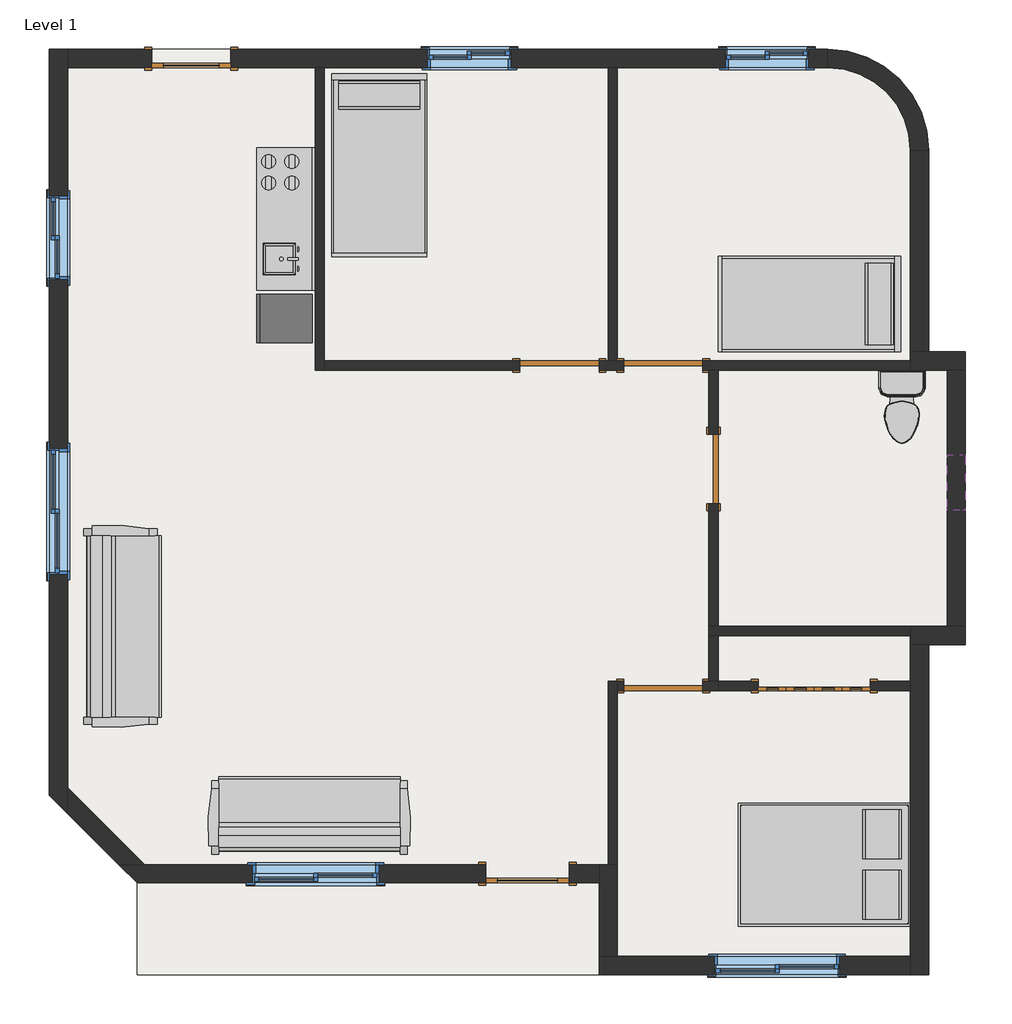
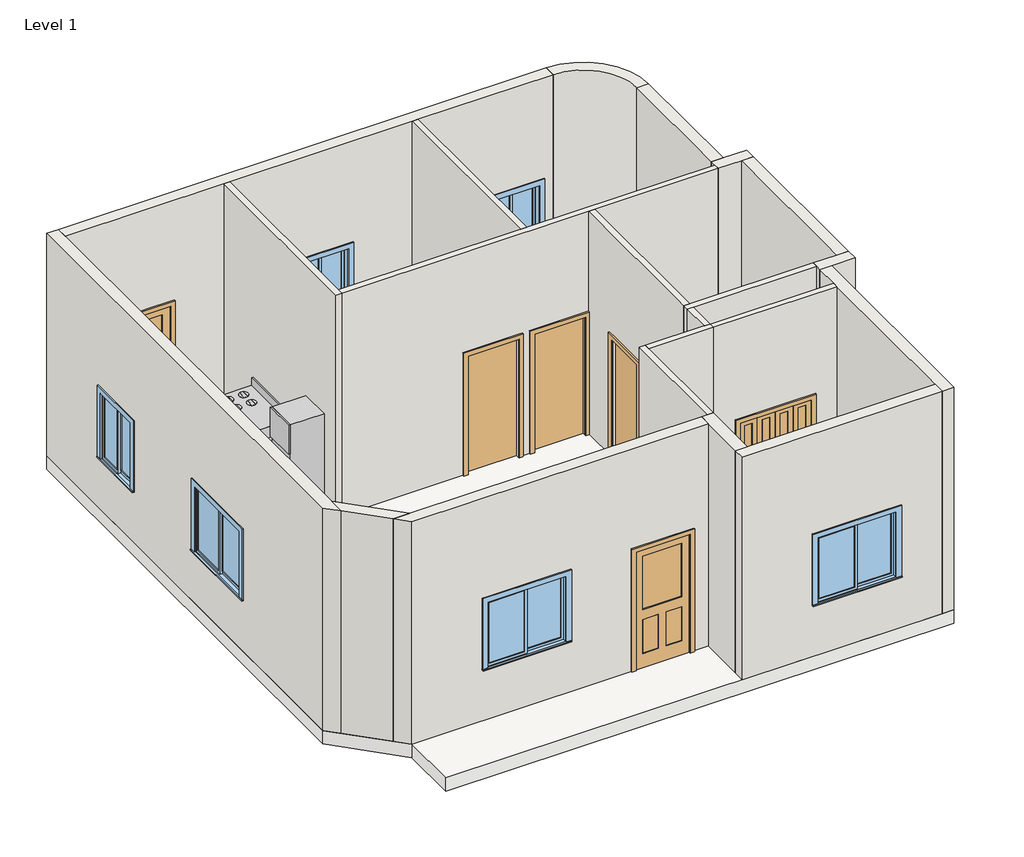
# One storey: 21 walls, 7 doors, 7 windows, 5 furniture elements, 2 flow terminals, 1 slab.
"""IFC4 building model written with IfcOpenShell, lengths in millimetres."""

from ifc_helpers import new_model, si_unit, point, frame, frame_2d, origin, origin_with_axes, place, context, project, spatial, polyline, circle_curve, trimmed, segment, composite_curve, outline, extrude, faceted_brep, transform, mapped, element, save
from components import m_bifold_4_panel_1220_x_2134mm_c9b228a8, m_single_decorative_1_0864_x_2134mm_a8b8a0d3, m_single_decorative_1_0914_x_2134mm_d79a5f66, m_single_flush_0762_x_2134mm_2f099e9c, m_single_flush_0864_x_2134mm_3838e64d, m_single_flush_0864_x_2134mm_bdbe8edc, m_kitchen_unit_635_mmx2135_mm_826748c3, m_toilet_domestic_3d_m_toilet_domestic_3d_5cb52bd4, m_toilet_domestic_3d_m_toilet_domestic_3d_183bbd19, m_bed_box_1346_x_1880mm_double_9a731973, m_bed_shaker_1040_x_1981mm_twin_31f1bf66, m_sofa_pensi_2134mm_eda8efce, m_fixed_0610_x_0610mm_cacddef9, m_sliding_with_trim_0915_x_1220mm_c5f69082, m_sliding_with_trim_1372_x_1220mm_1cbd48f5

model = new_model("IFC4")

# Units and contexts
model_context = context("Model", 3, world=origin())
ifc_project = project(units=[si_unit("LENGTHUNIT", "METRE", prefix="MILLI")], contexts=[model_context])

# Site, building, storey
site = spatial("IfcSite", under=ifc_project)
building = spatial("IfcBuilding", under=site)
storey = spatial("IfcBuildingStorey", under=building, Name="Level 1", Elevation=0.0)

# Doors
placement = place(None, origin())
m_bifold_4_panel_1220_x_2134mm_shape = m_bifold_4_panel_1220_x_2134mm_c9b228a8(model_context)
element("IfcDoor", 1, ObjectType="M_Bifold-4 Panel : 1220 x 2134mm", at=placement, inside=storey, context=model_context, shape_type="MappedRepresentation", body=[
    mapped(m_bifold_4_panel_1220_x_2134mm_shape, transform((-9012.9123896, -2705.4324328, 0.0), x_axis=(-1.0, 0.0, 0.0), y_axis=(0.0, -1.0, 0.0), z_axis=(0.0, 0.0, 1.0))),
])
m_single_decorative_1_0864_x_2134mm_shape = m_single_decorative_1_0864_x_2134mm_a8b8a0d3(model_context)
element("IfcDoor", 2, ObjectType="M_Single-Decorative 1 : 0864 x 2134mm", at=placement, inside=storey, context=model_context, shape_type="MappedRepresentation", body=[
    mapped(m_single_decorative_1_0864_x_2134mm_shape, transform((-15812.9123896, 4144.5675672, 0.0), x_axis=(-1.0, 0.0, 0.0), y_axis=(0.0, -1.0, 0.0), z_axis=(0.0, 0.0, 1.0))),
])
m_single_decorative_1_0914_x_2134mm_shape = m_single_decorative_1_0914_x_2134mm_d79a5f66(model_context)
element("IfcDoor", 3, ObjectType="M_Single-Decorative 1 : 0914 x 2134mm", at=placement, inside=storey, context=model_context, shape_type="MappedRepresentation", body=[
    mapped(m_single_decorative_1_0914_x_2134mm_shape, transform((-12142.9123896, -4755.4324328, 0.0), x_axis=(-1.0, 0.0, 0.0), y_axis=(0.0, -1.0, 0.0), z_axis=(0.0, 0.0, 1.0))),
])
m_single_flush_0762_x_2134mm_shape = m_single_flush_0762_x_2134mm_2f099e9c(model_context)
element("IfcDoor", 4, ObjectType="M_Single-Flush : 0762 x 2134mm", at=placement, inside=storey, context=model_context, shape_type="MappedRepresentation", body=[
    mapped(m_single_flush_0762_x_2134mm_shape, transform((-10112.9123896, -336.4324328, 0.0), x_axis=(0.0, 1.0, 0.0), y_axis=(-1.0, 0.0, 0.0), z_axis=(0.0, 0.0, 1.0))),
])
m_single_flush_0864_x_2134mm_shape = m_single_flush_0864_x_2134mm_3838e64d(model_context)
element("IfcDoor", 5, ObjectType="M_Single-Flush : 0864 x 2134mm", at=placement, inside=storey, context=model_context, shape_type="MappedRepresentation", body=[
    mapped(m_single_flush_0864_x_2134mm_shape, transform((-10662.9123896, -2705.4324328, 0.0), x_axis=(-1.0, 0.0, 0.0), y_axis=(0.0, -1.0, 0.0), z_axis=(0.0, 0.0, 1.0))),
])
element("IfcDoor", 6, ObjectType="M_Single-Flush : 0864 x 2134mm", at=placement, inside=storey, context=model_context, shape_type="MappedRepresentation", body=[
    mapped(m_single_flush_0864_x_2134mm_shape, transform((-11794.9123896, 794.5675672, 0.0), x_axis=(1.0, 0.0, 0.0), y_axis=(0.0, 1.0, 0.0), z_axis=(0.0, 0.0, 1.0))),
])
m_single_flush_0864_x_2134mm_2_shape = m_single_flush_0864_x_2134mm_bdbe8edc(model_context)
element("IfcDoor", 7, ObjectType="M_Single-Flush : 0864 x 2134mm", at=placement, inside=storey, context=model_context, shape_type="MappedRepresentation", body=[
    mapped(m_single_flush_0864_x_2134mm_2_shape, transform((-10662.9123896, 794.5675672, 0.0), x_axis=(-1.0, 0.0, 0.0), y_axis=(0.0, -1.0, 0.0), z_axis=(0.0, 0.0, 1.0))),
])

# Flow terminals
m_kitchen_unit_635_mmx2135_mm_shape = m_kitchen_unit_635_mmx2135_mm_826748c3(model_context)
element("IfcFlowTerminal", 8, ObjectType="M_Kitchen Unit : 635 mmx2135 mm", at=placement, inside=storey, context=model_context, shape_type="MappedRepresentation", body=[
    mapped(m_kitchen_unit_635_mmx2135_mm_shape, transform((-14462.9123896, 2394.5675672, 0.0), x_axis=(-1.0000000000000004, 0.0, 0.0), y_axis=(0.0, -1.0000000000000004, 0.0), z_axis=(0.0, 0.0, 1.0))),
])
m_toilet_domestic_3d_m_toilet_domestic_3d_shape = m_toilet_domestic_3d_m_toilet_domestic_3d_5cb52bd4(model_context)
m_toilet_domestic_3d_m_toilet_domestic_3d_2_shape = m_toilet_domestic_3d_m_toilet_domestic_3d_183bbd19(model_context)
element("IfcFlowTerminal", 9, ObjectType="M_Toilet-Domestic-3D : M_Toilet-Domestic-3D", at=placement, inside=storey, context=model_context, shape_type="MappedRepresentation", body=[
    mapped(m_toilet_domestic_3d_m_toilet_domestic_3d_shape, transform((-8056.308417, 249.8715399, 0.0), x_axis=(1.0, 0.0, 0.0), y_axis=(0.0, 1.0, 0.0), z_axis=(0.0, 0.0, 1.0))),
    mapped(m_toilet_domestic_3d_m_toilet_domestic_3d_2_shape, transform((-8056.308417, 249.8715399, 0.0), x_axis=(1.0, 0.0, 0.0), y_axis=(0.0, 1.0, 0.0), z_axis=(0.0, 0.0, 1.0))),
])

# Furniture
m_bed_box_1346_x_1880mm_double_shape = m_bed_box_1346_x_1880mm_double_9a731973(model_context)
element("IfcFurniture", 10, ObjectType="M_Bed-Box : 1346 x 1880mm - Double", at=placement, inside=storey, context=model_context, shape_type="MappedRepresentation", body=[
    mapped(m_bed_box_1346_x_1880mm_double_shape, transform((-8668.4828814, -4316.2799738, 0.0), x_axis=(0.0, -1.0, 0.0), y_axis=(1.0, 0.0, 0.0), z_axis=(0.0, 0.0, 1.0))),
])
m_bed_shaker_1040_x_1981mm_twin_shape = m_bed_shaker_1040_x_1981mm_twin_31f1bf66(model_context)
element("IfcFurniture", 11, ObjectType="M_Bed-Shaker : 1040 x 1981mm - Twin", at=placement, inside=storey, context=model_context, shape_type="MappedRepresentation", body=[
    mapped(m_bed_shaker_1040_x_1981mm_twin_shape, transform((-8081.7123896, 1446.2175672, 0.0), x_axis=(0.0, -1.0000000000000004, 0.0), y_axis=(1.0000000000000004, 0.0, 0.0), z_axis=(0.0, 0.0, 1.0))),
])
element("IfcFurniture", 12, ObjectType="M_Bed-Shaker : 1040 x 1981mm - Twin", at=placement, inside=storey, context=model_context, shape_type="MappedRepresentation", body=[
    mapped(m_bed_shaker_1040_x_1981mm_twin_shape, transform((-13743.1623896, 3964.5675672, 0.0), x_axis=(1.0, 0.0, 0.0), y_axis=(0.0, 1.0, 0.0), z_axis=(0.0, 0.0, 1.0))),
])
m_sofa_pensi_2134mm_shape = m_sofa_pensi_2134mm_eda8efce(model_context)
element("IfcFurniture", 13, ObjectType="M_Sofa-Pensi : 2134mm", at=placement, inside=storey, context=model_context, shape_type="MappedRepresentation", body=[
    mapped(m_sofa_pensi_2134mm_shape, transform((-14244.3061396, -3838.3225967, 0.0), x_axis=(-0.9999999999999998, 0.0, 0.0), y_axis=(0.0, -0.9999999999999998, 0.0), z_axis=(0.0, 0.0, 1.0))),
])
element("IfcFurniture", 14, ObjectType="M_Sofa-Pensi : 2134mm", at=placement, inside=storey, context=model_context, shape_type="MappedRepresentation", body=[
    mapped(m_sofa_pensi_2134mm_shape, transform((-16285.8025536, -2334.0386828, 0.0), x_axis=(0.0, 1.0000000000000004, 0.0), y_axis=(-1.0000000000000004, 0.0, 0.0), z_axis=(0.0, 0.0, 1.0))),
])

# Slab
element("IfcSlab", 15, ObjectType="Standard Timber-Wood Finish", at=placement, inside=storey, context=model_context, shape_type="SweptSolid", body=[
    extrude(outline(composite_curve([segment(polyline([(-7762.9123896, 944.5675672), (-7362.9123896, 944.5675672), (-7362.9123896, -2255.4324328), (-7762.9123896, -2255.4324328), (-7762.9123896, -5855.4324328), (-16404.3337459, -5855.4324328), (-16404.3337459, -4855.4324328), (-17362.9123896, -3896.853789), (-17362.9123896, 4244.5675672), (-8862.9123896, 4244.5675672)]), True, "CONTINUOUS"), segment(trimmed(circle_curve(frame_2d((-8862.9123896, 3144.5675672)), 1100.0), [point((-8862.9123896, 4244.5675672))], [point((-7762.9123896, 3144.5675672))], False, "CARTESIAN"), True, "CONTINUOUS"), segment(polyline([(-7762.9123896, 3144.5675672), (-7762.9123896, 944.5675672)]), True, "CONTINUOUS")], self_intersect=False)), frame((0.0, 0.0, -241.0), z_axis=(0.0, 0.0, 1.0), x_axis=(1.0, 0.0, 0.0)), (0.0, 0.0, 1.0), 241.0),
])

# Walls
element("IfcWall", 16, ObjectType="Generic - 100mm", at=placement, inside=storey, context=model_context, shape_type="Brep", body=[
    faceted_brep([(-7962.9123896, -2055.4324328, 0.0), (-10062.9123896, -2055.4324328, 0.0), (-10162.9123896, -2055.4324328, 0.0), (-10162.9123896, -2055.4324328, 4000.0), (-10062.9123896, -2055.4324328, 4000.0), (-7962.9123896, -2055.4324328, 4000.0), (-7962.9123896, -2155.4324328, 0.0), (-7962.9123896, -2155.4324328, 4000.0), (-10062.9123896, -2155.4324328, 4000.0), (-10162.9123896, -2155.4324328, 4000.0), (-10162.9123896, -2155.4324328, 0.0), (-10062.9123896, -2155.4324328, 0.0)], [[[0, 1, 2, 3, 4, 5]], [[6, 7, 8, 9, 10, 11]], [[2, 1, 0, 6, 11, 10]], [[5, 4, 3, 9, 8, 7]], [[0, 5, 7, 6]], [[3, 2, 10, 9]]]),
])
element("IfcWall", 17, ObjectType="Generic - 100mm", at=placement, inside=storey, context=model_context, shape_type="Brep", body=[
    faceted_brep([(-11262.9123896, -2655.4324328, 0.0), (-11262.9123896, -4655.4324328, 0.0), (-11262.9123896, -4655.4324328, 4000.0), (-11262.9123896, -2655.4324328, 4000.0), (-11162.9123896, -2655.4324328, 0.0), (-11162.9123896, -2655.4324328, 4000.0), (-11162.9123896, -2755.4324328, 4000.0), (-11162.9123896, -4655.4324328, 4000.0), (-11162.9123896, -4655.4324328, 0.0), (-11162.9123896, -2755.4324328, 0.0)], [[[0, 1, 2, 3]], [[4, 5, 6, 7, 8, 9]], [[1, 0, 4, 9, 8]], [[3, 2, 7, 6, 5]], [[2, 1, 8, 7]], [[0, 3, 5, 4]]]),
])
element("IfcWall", 18, ObjectType="Generic - 100mm", at=placement, inside=storey, context=model_context, shape_type="Brep", body=[
    faceted_brep([(-11094.9123896, -2655.4324328, 2134.0), (-11094.9123896, -2655.4324328, 0.0), (-11162.9123896, -2655.4324328, 0.0), (-11162.9123896, -2655.4324328, 4000.0), (-10162.9123896, -2655.4324328, 4000.0), (-10062.9123896, -2655.4324328, 4000.0), (-10062.9123896, -2655.4324328, 0.0), (-10162.9123896, -2655.4324328, 0.0), (-10230.9123896, -2655.4324328, 0.0), (-10230.9123896, -2655.4324328, 2134.0), (-11162.9123896, -2755.4324328, 0.0), (-11094.9123896, -2755.4324328, 0.0), (-11094.9123896, -2755.4324328, 2134.0), (-10230.9123896, -2755.4324328, 2134.0), (-10230.9123896, -2755.4324328, 0.0), (-10062.9123896, -2755.4324328, 0.0), (-10062.9123896, -2755.4324328, 4000.0), (-11162.9123896, -2755.4324328, 4000.0)], [[[0, 1, 2, 3, 4, 5, 6, 7, 8, 9]], [[10, 11, 12, 13, 14, 15, 16, 17]], [[2, 1, 11, 10]], [[8, 7, 6, 15, 14]], [[5, 4, 3, 17, 16]], [[3, 2, 10, 17]], [[6, 5, 16, 15]], [[12, 11, 1, 0]], [[13, 12, 0, 9]], [[14, 13, 9, 8]]]),
])
element("IfcWall", 19, ObjectType="Generic - 100mm", at=placement, inside=storey, context=model_context, shape_type="SweptSolid", body=[
    extrude(outline(polyline([(-10162.9123896, -2655.4324328), (-10162.9123896, -2155.4324328), (-10062.9123896, -2155.4324328), (-10062.9123896, -2655.4324328), (-10162.9123896, -2655.4324328)])), origin_with_axes(), (0.0, 0.0, 1.0), 4000.0),
])
element("IfcWall", 20, ObjectType="Generic - 100mm", at=placement, inside=storey, context=model_context, shape_type="SweptSolid", body=[
    extrude(outline(polyline([(4000.0, -7962.9123896), (4000.0, -10062.9123896), (0.0, -10062.9123896), (0.0, -9622.9123896), (2134.0, -9622.9123896), (2134.0, -8402.9123896), (0.0, -8402.9123896), (0.0, -7962.9123896), (4000.0, -7962.9123896)])), frame((0.0, -2755.4324328, 0.0), z_axis=(0.0, 1.0, 0.0), x_axis=(0.0, 0.0, 1.0)), (0.0, 0.0, 1.0), 100.0),
])
element("IfcWall", 21, ObjectType="Generic - 100mm", at=placement, inside=storey, context=model_context, shape_type="Brep", body=[
    faceted_brep([(-11094.9123896, 844.5675672, 0.0), (-11162.9123896, 844.5675672, 0.0), (-11262.9123896, 844.5675672, 0.0), (-11362.9123896, 844.5675672, 0.0), (-11362.9123896, 844.5675672, 2134.0), (-12226.9123896, 844.5675672, 2134.0), (-12226.9123896, 844.5675672, 0.0), (-14362.9123896, 844.5675672, 0.0), (-14362.9123896, 844.5675672, 4000.0), (-11262.9123896, 844.5675672, 4000.0), (-11162.9123896, 844.5675672, 4000.0), (-7962.9123896, 844.5675672, 4000.0), (-7962.9123896, 844.5675672, 0.0), (-10230.9123896, 844.5675672, 0.0), (-10230.9123896, 844.5675672, 2134.0), (-11094.9123896, 844.5675672, 2134.0), (-11362.9123896, 744.5675672, 2134.0), (-11362.9123896, 744.5675672, 0.0), (-11094.9123896, 744.5675672, 0.0), (-11094.9123896, 744.5675672, 2134.0), (-10230.9123896, 744.5675672, 2134.0), (-10230.9123896, 744.5675672, 0.0), (-10162.9123896, 744.5675672, 0.0), (-10062.9123896, 744.5675672, 0.0), (-7962.9123896, 744.5675672, 0.0), (-7962.9123896, 744.5675672, 4000.0), (-10062.9123896, 744.5675672, 4000.0), (-10162.9123896, 744.5675672, 4000.0), (-14362.9123896, 744.5675672, 4000.0), (-14362.9123896, 744.5675672, 0.0), (-12226.9123896, 744.5675672, 0.0), (-12226.9123896, 744.5675672, 2134.0)], [[[0, 1, 2, 3, 4, 5, 6, 7, 8, 9, 10, 11, 12, 13, 14, 15]], [[16, 17, 18, 19, 20, 21, 22, 23, 24, 25, 26, 27, 28, 29, 30, 31]], [[13, 12, 24, 23, 22, 21]], [[30, 29, 7, 6]], [[18, 17, 3, 2, 1, 0]], [[11, 10, 9, 8, 28, 27, 26, 25]], [[12, 11, 25, 24]], [[8, 7, 29, 28]], [[19, 18, 0, 15]], [[20, 19, 15, 14]], [[21, 20, 14, 13]], [[4, 3, 17, 16]], [[5, 4, 16, 31]], [[6, 5, 31, 30]]]),
])
element("IfcWall", 22, ObjectType="Generic - 100mm", at=placement, inside=storey, context=model_context, shape_type="SweptSolid", body=[
    extrude(outline(polyline([(744.5675672, 0.0), (44.5675672, 0.0), (44.5675672, 2134.0), (-717.4324328, 2134.0), (-717.4324328, 0.0), (-2055.4324328, 0.0), (-2055.4324328, 4000.0), (744.5675672, 4000.0), (744.5675672, 0.0)])), frame((-10162.9123896, 0.0, 0.0), z_axis=(1.0, 0.0, 0.0), x_axis=(0.0, 1.0, 0.0)), (0.0, 0.0, 1.0), 100.0),
])
element("IfcWall", 23, ObjectType="Generic - 100mm", at=placement, inside=storey, context=model_context, shape_type="Brep", body=[
    faceted_brep([(-14462.9123896, 4044.5675672, 0.0), (-14462.9123896, 744.5675672, 0.0), (-14462.9123896, 744.5675672, 4000.0), (-14462.9123896, 4044.5675672, 4000.0), (-14362.9123896, 4044.5675672, 0.0), (-14362.9123896, 4044.5675672, 4000.0), (-14362.9123896, 844.5675672, 4000.0), (-14362.9123896, 744.5675672, 4000.0), (-14362.9123896, 744.5675672, 0.0), (-14362.9123896, 844.5675672, 0.0)], [[[0, 1, 2, 3]], [[4, 5, 6, 7, 8, 9]], [[1, 0, 4, 9, 8]], [[3, 2, 7, 6, 5]], [[0, 3, 5, 4]], [[2, 1, 8, 7]]]),
])
element("IfcWall", 24, ObjectType="Generic - 100mm", at=placement, inside=storey, context=model_context, shape_type="SweptSolid", body=[
    extrude(outline(polyline([(-11262.9123896, 844.5675672), (-11262.9123896, 4044.5675672), (-11162.9123896, 4044.5675672), (-11162.9123896, 844.5675672), (-11262.9123896, 844.5675672)])), origin_with_axes(), (0.0, 0.0, 1.0), 4000.0),
])
element("IfcWall", 25, ObjectType="Generic - 200mm", at=placement, inside=storey, context=model_context, shape_type="Brep", body=[
    faceted_brep([(-17162.9123896, -4096.853789, 0.0), (-17162.9123896, -3814.0110766, 0.0), (-17162.9123896, 4044.5675672, 0.0), (-17162.9123896, 4244.5675672, 0.0), (-17162.9123896, 4244.5675672, 4000.0), (-17162.9123896, 4044.5675672, 4000.0), (-17162.9123896, -3814.0110766, 4000.0), (-17162.9123896, -4096.853789, 4000.0), (-17162.9123896, -113.4824328, 2135.0), (-17162.9123896, -113.4824328, 915.0), (-17162.9123896, -1485.4824328, 915.0), (-17162.9123896, -1485.4824328, 2135.0), (-17162.9123896, 2644.5675672, 2135.0), (-17162.9123896, 2644.5675672, 915.0), (-17162.9123896, 1729.5675672, 915.0), (-17162.9123896, 1729.5675672, 2135.0), (-17362.9123896, -3896.853789, 0.0), (-17362.9123896, -3896.853789, 4000.0), (-17362.9123896, 4244.5675672, 4000.0), (-17362.9123896, 4244.5675672, 0.0), (-17362.9123896, -113.4824328, 2135.0), (-17362.9123896, -1485.4824328, 2135.0), (-17362.9123896, -1485.4824328, 915.0), (-17362.9123896, -113.4824328, 915.0), (-17362.9123896, 2644.5675672, 2135.0), (-17362.9123896, 1729.5675672, 2135.0), (-17362.9123896, 1729.5675672, 915.0), (-17362.9123896, 2644.5675672, 915.0)], [[[0, 1, 2, 3, 4, 5, 6, 7], [8, 9, 10, 11], [12, 13, 14, 15]], [[16, 17, 18, 19], [20, 21, 22, 23], [24, 25, 26, 27]], [[3, 2, 1, 0, 16, 19]], [[7, 6, 5, 4, 18, 17]], [[4, 3, 19, 18]], [[9, 8, 20, 23]], [[10, 9, 23, 22]], [[11, 10, 22, 21]], [[8, 11, 21, 20]], [[13, 12, 24, 27]], [[14, 13, 27, 26]], [[15, 14, 26, 25]], [[12, 15, 25, 24]], [[0, 7, 17, 16]]]),
])
element("IfcWall", 26, ObjectType="Generic - 200mm", at=placement, inside=storey, context=model_context, shape_type="Brep", body=[
    faceted_brep([(-8862.9123896, 4044.5675672, 0.0), (-8862.9123896, 4044.5675672, 4000.0), (-11162.9123896, 4044.5675672, 4000.0), (-11262.9123896, 4044.5675672, 4000.0), (-14362.9123896, 4044.5675672, 4000.0), (-14462.9123896, 4044.5675672, 4000.0), (-17162.9123896, 4044.5675672, 4000.0), (-17162.9123896, 4044.5675672, 0.0), (-16244.9123896, 4044.5675672, 0.0), (-16244.9123896, 4044.5675672, 2134.0), (-15380.9123896, 4044.5675672, 2134.0), (-15380.9123896, 4044.5675672, 0.0), (-14462.9123896, 4044.5675672, 0.0), (-14362.9123896, 4044.5675672, 0.0), (-11262.9123896, 4044.5675672, 0.0), (-11162.9123896, 4044.5675672, 0.0), (-9070.4373896, 4044.5675672, 2135.0), (-9070.4373896, 4044.5675672, 915.0), (-9985.4373896, 4044.5675672, 915.0), (-9985.4373896, 4044.5675672, 2135.0), (-12320.4373896, 4044.5675672, 2135.0), (-12320.4373896, 4044.5675672, 915.0), (-13235.4373896, 4044.5675672, 915.0), (-13235.4373896, 4044.5675672, 2135.0), (-8862.9123896, 4244.5675672, 4000.0), (-8862.9123896, 4244.5675672, 0.0), (-15380.9123896, 4244.5675672, 0.0), (-15380.9123896, 4244.5675672, 2134.0), (-16244.9123896, 4244.5675672, 2134.0), (-16244.9123896, 4244.5675672, 0.0), (-17162.9123896, 4244.5675672, 0.0), (-17162.9123896, 4244.5675672, 4000.0), (-9070.4373896, 4244.5675672, 2135.0), (-9985.4373896, 4244.5675672, 2135.0), (-9985.4373896, 4244.5675672, 915.0), (-9070.4373896, 4244.5675672, 915.0), (-12320.4373896, 4244.5675672, 2135.0), (-13235.4373896, 4244.5675672, 2135.0), (-13235.4373896, 4244.5675672, 915.0), (-12320.4373896, 4244.5675672, 915.0)], [[[0, 1, 2, 3, 4, 5, 6, 7, 8, 9, 10, 11, 12, 13, 14, 15], [16, 17, 18, 19], [20, 21, 22, 23]], [[24, 25, 26, 27, 28, 29, 30, 31], [32, 33, 34, 35], [36, 37, 38, 39]], [[7, 30, 29, 8]], [[25, 0, 15, 14, 13, 12, 11, 26]], [[1, 0, 25, 24]], [[6, 5, 4, 3, 2, 1, 24, 31]], [[7, 6, 31, 30]], [[28, 9, 8, 29]], [[9, 28, 27, 10]], [[10, 27, 26, 11]], [[17, 16, 32, 35]], [[18, 17, 35, 34]], [[19, 18, 34, 33]], [[16, 19, 33, 32]], [[21, 20, 36, 39]], [[22, 21, 39, 38]], [[23, 22, 38, 37]], [[20, 23, 37, 36]]]),
])
element("IfcWall", 27, ObjectType="Generic - 200mm", at=placement, inside=storey, context=model_context, shape_type="SweptSolid", body=[
    extrude(outline(polyline([(-7962.9123896, 944.5675672), (-7962.9123896, 3144.5675672), (-7762.9123896, 3144.5675672), (-7762.9123896, 944.5675672), (-7962.9123896, 944.5675672)])), origin_with_axes(), (0.0, 0.0, 1.0), 4000.0),
])
element("IfcWall", 28, ObjectType="Generic - 200mm", at=placement, inside=storey, context=model_context, shape_type="Brep", body=[
    faceted_brep([(-7962.9123896, 744.5675672, 0.0), (-7562.9123896, 744.5675672, 0.0), (-7362.9123896, 744.5675672, 0.0), (-7362.9123896, 744.5675672, 4000.0), (-7562.9123896, 744.5675672, 4000.0), (-7962.9123896, 744.5675672, 4000.0), (-7962.9123896, 944.5675672, 0.0), (-7962.9123896, 944.5675672, 4000.0), (-7762.9123896, 944.5675672, 4000.0), (-7362.9123896, 944.5675672, 4000.0), (-7362.9123896, 944.5675672, 0.0), (-7762.9123896, 944.5675672, 0.0), (-7962.9123896, 844.5675672, 0.0), (-7962.9123896, 844.5675672, 4000.0)], [[[0, 1, 2, 3, 4, 5]], [[6, 7, 8, 9, 10, 11]], [[2, 1, 0, 12, 6, 11, 10]], [[5, 4, 3, 9, 8, 7, 13]], [[0, 5, 13, 7, 6, 12]], [[3, 2, 10, 9]]]),
])
element("IfcWall", 29, ObjectType="Generic - 200mm", at=placement, inside=storey, context=model_context, shape_type="SweptSolid", body=[
    extrude(outline(polyline([(744.5675672, 0.0), (-2055.4324328, 0.0), (-2055.4324328, 4000.0), (744.5675672, 4000.0), (744.5675672, 0.0)]), holes=[polyline([(-177.8824328, 1800.0), (-177.8824328, 2410.0), (-787.8824328, 2410.0), (-787.8824328, 1800.0), (-177.8824328, 1800.0)])]), frame((-7562.9123896, 0.0, 0.0), z_axis=(1.0, 0.0, 0.0), x_axis=(0.0, 1.0, 0.0)), (0.0, 0.0, 1.0), 200.0),
])
element("IfcWall", 30, ObjectType="Generic - 200mm", at=placement, inside=storey, context=model_context, shape_type="Brep", body=[
    faceted_brep([(-7362.9123896, -2055.4324328, 0.0), (-7562.9123896, -2055.4324328, 0.0), (-7962.9123896, -2055.4324328, 0.0), (-7962.9123896, -2055.4324328, 4000.0), (-7562.9123896, -2055.4324328, 4000.0), (-7362.9123896, -2055.4324328, 4000.0), (-7362.9123896, -2255.4324328, 0.0), (-7362.9123896, -2255.4324328, 4000.0), (-7762.9123896, -2255.4324328, 4000.0), (-7962.9123896, -2255.4324328, 4000.0), (-7962.9123896, -2255.4324328, 0.0), (-7762.9123896, -2255.4324328, 0.0), (-7962.9123896, -2155.4324328, 0.0), (-7962.9123896, -2155.4324328, 4000.0)], [[[0, 1, 2, 3, 4, 5]], [[6, 7, 8, 9, 10, 11]], [[2, 1, 0, 6, 11, 10, 12]], [[5, 4, 3, 13, 9, 8, 7]], [[0, 5, 7, 6]], [[3, 2, 12, 10, 9, 13]]]),
])
element("IfcWall", 31, ObjectType="Generic - 200mm", at=placement, inside=storey, context=model_context, shape_type="Brep", body=[
    faceted_brep([(-7962.9123896, -2255.4324328, 0.0), (-7962.9123896, -2655.4324328, 0.0), (-7962.9123896, -2755.4324328, 0.0), (-7962.9123896, -5655.4324328, 0.0), (-7962.9123896, -5855.4324328, 0.0), (-7962.9123896, -5855.4324328, 4000.0), (-7962.9123896, -5655.4324328, 4000.0), (-7962.9123896, -2755.4324328, 4000.0), (-7962.9123896, -2655.4324328, 4000.0), (-7962.9123896, -2255.4324328, 4000.0), (-7762.9123896, -2255.4324328, 0.0), (-7762.9123896, -2255.4324328, 4000.0), (-7762.9123896, -5855.4324328, 4000.0), (-7762.9123896, -5855.4324328, 0.0)], [[[0, 1, 2, 3, 4, 5, 6, 7, 8, 9]], [[10, 11, 12, 13]], [[4, 3, 2, 1, 0, 10, 13]], [[9, 8, 7, 6, 5, 12, 11]], [[0, 9, 11, 10]], [[5, 4, 13, 12]]]),
])
element("IfcWall", 32, ObjectType="Generic - 200mm", at=placement, inside=storey, context=model_context, shape_type="Brep", body=[
    faceted_brep([(-7962.9123896, -5655.4324328, 0.0), (-11162.9123896, -5655.4324328, 0.0), (-11362.9123896, -5655.4324328, 0.0), (-11362.9123896, -5655.4324328, 4000.0), (-11162.9123896, -5655.4324328, 4000.0), (-7962.9123896, -5655.4324328, 4000.0), (-10104.8623896, -5655.4324328, 2135.0), (-10104.8623896, -5655.4324328, 915.0), (-8732.8623896, -5655.4324328, 915.0), (-8732.8623896, -5655.4324328, 2135.0), (-7962.9123896, -5855.4324328, 0.0), (-7962.9123896, -5855.4324328, 4000.0), (-11362.9123896, -5855.4324328, 4000.0), (-11362.9123896, -5855.4324328, 0.0), (-10104.8623896, -5855.4324328, 2135.0), (-8732.8623896, -5855.4324328, 2135.0), (-8732.8623896, -5855.4324328, 915.0), (-10104.8623896, -5855.4324328, 915.0)], [[[0, 1, 2, 3, 4, 5], [6, 7, 8, 9]], [[10, 11, 12, 13], [14, 15, 16, 17]], [[2, 1, 0, 10, 13]], [[5, 4, 3, 12, 11]], [[0, 5, 11, 10]], [[3, 2, 13, 12]], [[7, 6, 14, 17]], [[8, 7, 17, 16]], [[9, 8, 16, 15]], [[6, 9, 15, 14]]]),
])
element("IfcWall", 33, ObjectType="Generic - 200mm", at=placement, inside=storey, context=model_context, shape_type="Brep", body=[
    faceted_brep([(-11162.9123896, -5655.4324328, 0.0), (-11162.9123896, -4655.4324328, 0.0), (-11162.9123896, -4655.4324328, 4000.0), (-11162.9123896, -5655.4324328, 4000.0), (-11362.9123896, -5655.4324328, 0.0), (-11362.9123896, -5655.4324328, 4000.0), (-11362.9123896, -4855.4324328, 4000.0), (-11362.9123896, -4655.4324328, 4000.0), (-11362.9123896, -4655.4324328, 0.0), (-11362.9123896, -4855.4324328, 0.0), (-11262.9123896, -4655.4324328, 0.0), (-11262.9123896, -4655.4324328, 4000.0)], [[[0, 1, 2, 3]], [[4, 5, 6, 7, 8, 9]], [[1, 0, 4, 9, 8, 10]], [[3, 2, 11, 7, 6, 5]], [[0, 3, 5, 4]], [[2, 1, 10, 8, 7, 11]]]),
])
element("IfcWall", 34, ObjectType="Generic - 200mm", at=placement, inside=storey, context=model_context, shape_type="Brep", body=[
    faceted_brep([(-16604.3337459, -4655.4324328, 4000.0), (-16321.4910334, -4655.4324328, 4000.0), (-11362.9123896, -4655.4324328, 4000.0), (-11362.9123896, -4655.4324328, 0.0), (-11685.9123896, -4655.4324328, 0.0), (-11685.9123896, -4655.4324328, 2134.0), (-12599.9123896, -4655.4324328, 2134.0), (-12599.9123896, -4655.4324328, 0.0), (-16321.4910334, -4655.4324328, 0.0), (-16604.3337459, -4655.4324328, 0.0), (-15141.8623896, -4655.4324328, 2135.0), (-15141.8623896, -4655.4324328, 915.0), (-13769.8623896, -4655.4324328, 915.0), (-13769.8623896, -4655.4324328, 2135.0), (-11362.9123896, -4855.4324328, 4000.0), (-16404.3337459, -4855.4324328, 4000.0), (-16404.3337459, -4855.4324328, 0.0), (-12599.9123896, -4855.4324328, 0.0), (-12599.9123896, -4855.4324328, 2134.0), (-11685.9123896, -4855.4324328, 2134.0), (-11685.9123896, -4855.4324328, 0.0), (-11362.9123896, -4855.4324328, 0.0), (-15141.8623896, -4855.4324328, 2135.0), (-13769.8623896, -4855.4324328, 2135.0), (-13769.8623896, -4855.4324328, 915.0), (-15141.8623896, -4855.4324328, 915.0)], [[[0, 1, 2, 3, 4, 5, 6, 7, 8, 9], [10, 11, 12, 13]], [[14, 15, 16, 17, 18, 19, 20, 21], [22, 23, 24, 25]], [[3, 21, 20, 4]], [[16, 9, 8, 7, 17]], [[2, 1, 0, 15, 14]], [[3, 2, 14, 21]], [[0, 9, 16, 15]], [[6, 18, 17, 7]], [[19, 5, 4, 20]], [[5, 19, 18, 6]], [[11, 10, 22, 25]], [[12, 11, 25, 24]], [[13, 12, 24, 23]], [[10, 13, 23, 22]]]),
])
element("IfcWall", 35, ObjectType="Generic - 200mm", at=placement, inside=storey, context=model_context, shape_type="SweptSolid", body=[
    extrude(outline(composite_curve([segment(polyline([(-8862.9123896, 4044.5675672), (-8862.9123896, 4244.5675672)]), True, "CONTINUOUS"), segment(trimmed(circle_curve(frame_2d((-8862.9123896, 3144.5675672)), 1100.0), [point((-8862.9123896, 4244.5675672))], [point((-7762.9123896, 3144.5675672))], False, "CARTESIAN"), True, "CONTINUOUS"), segment(polyline([(-7762.9123896, 3144.5675672), (-7962.9123896, 3144.5675672)]), True, "CONTINUOUS"), segment(trimmed(circle_curve(frame_2d((-8862.9123896, 3144.5675672)), 900.0), [point((-7962.9123896, 3144.5675672))], [point((-8862.9123896, 4044.5675672))], True, "CARTESIAN"), True, "CONTINUOUS")], self_intersect=False)), origin_with_axes(), (0.0, 0.0, 1.0), 4000.0),
])
element("IfcWall", 36, ObjectType="Generic - 200mm", at=placement, inside=storey, context=model_context, shape_type="SweptSolid", body=[
    extrude(outline(polyline([(-17162.9123896, -3814.0110766), (-16321.4910334, -4655.4324328), (-16604.3337459, -4655.4324328), (-17162.9123896, -4096.853789), (-17162.9123896, -3814.0110766)])), origin_with_axes(), (0.0, 0.0, 1.0), 4000.0),
])

# Windows
m_fixed_0610_x_0610mm_shape = m_fixed_0610_x_0610mm_cacddef9(model_context)
element("IfcWindow", 37, ObjectType="M_Fixed : 0610 x 0610mm", at=placement, inside=storey, context=model_context, shape_type="MappedRepresentation", body=[
    mapped(m_fixed_0610_x_0610mm_shape, transform((-7475.9123896, -482.8824328, 885.0), x_axis=(0.0, -1.0, 0.0), y_axis=(1.0, 0.0, 0.0), z_axis=(0.0, 0.0, 1.0))),
])
m_sliding_with_trim_0915_x_1220mm_shape = m_sliding_with_trim_0915_x_1220mm_c5f69082(model_context)
element("IfcWindow", 38, ObjectType="M_Sliding with Trim : 0915 x 1220mm", at=placement, inside=storey, context=model_context, shape_type="MappedRepresentation", body=[
    mapped(m_sliding_with_trim_0915_x_1220mm_shape, transform((-9527.9373896, 4144.5675672, 0.0), x_axis=(1.0, 0.0, 0.0), y_axis=(0.0, 1.0, 0.0), z_axis=(0.0, 0.0, 1.0))),
])
element("IfcWindow", 39, ObjectType="M_Sliding with Trim : 0915 x 1220mm", at=placement, inside=storey, context=model_context, shape_type="MappedRepresentation", body=[
    mapped(m_sliding_with_trim_0915_x_1220mm_shape, transform((-12777.9373896, 4144.5675672, 0.0), x_axis=(1.0, 0.0, 0.0), y_axis=(0.0, 1.0, 0.0), z_axis=(0.0, 0.0, 1.0))),
])
element("IfcWindow", 40, ObjectType="M_Sliding with Trim : 0915 x 1220mm", at=placement, inside=storey, context=model_context, shape_type="MappedRepresentation", body=[
    mapped(m_sliding_with_trim_0915_x_1220mm_shape, transform((-17262.9123896, 2187.0675672, 0.0), x_axis=(0.0, 1.0, 0.0), y_axis=(-1.0, 0.0, 0.0), z_axis=(0.0, 0.0, 1.0))),
])
m_sliding_with_trim_1372_x_1220mm_shape = m_sliding_with_trim_1372_x_1220mm_1cbd48f5(model_context)
element("IfcWindow", 41, ObjectType="M_Sliding with Trim : 1372 x 1220mm", at=placement, inside=storey, context=model_context, shape_type="MappedRepresentation", body=[
    mapped(m_sliding_with_trim_1372_x_1220mm_shape, transform((-17262.9123896, -799.4824328, 0.0), x_axis=(0.0, 1.0, 0.0), y_axis=(-1.0, 0.0, 0.0), z_axis=(0.0, 0.0, 1.0))),
])
element("IfcWindow", 42, ObjectType="M_Sliding with Trim : 1372 x 1220mm", at=placement, inside=storey, context=model_context, shape_type="MappedRepresentation", body=[
    mapped(m_sliding_with_trim_1372_x_1220mm_shape, transform((-9418.8623896, -5755.4324328, 0.0), x_axis=(-1.0, 0.0, 0.0), y_axis=(0.0, -1.0, 0.0), z_axis=(0.0, 0.0, 1.0))),
])
element("IfcWindow", 43, ObjectType="M_Sliding with Trim : 1372 x 1220mm", at=placement, inside=storey, context=model_context, shape_type="MappedRepresentation", body=[
    mapped(m_sliding_with_trim_1372_x_1220mm_shape, transform((-14455.8623896, -4755.4324328, 0.0), x_axis=(-1.0, 0.0, 0.0), y_axis=(0.0, -1.0, 0.0), z_axis=(0.0, 0.0, 1.0))),
])

save(model, "model.ifc")
